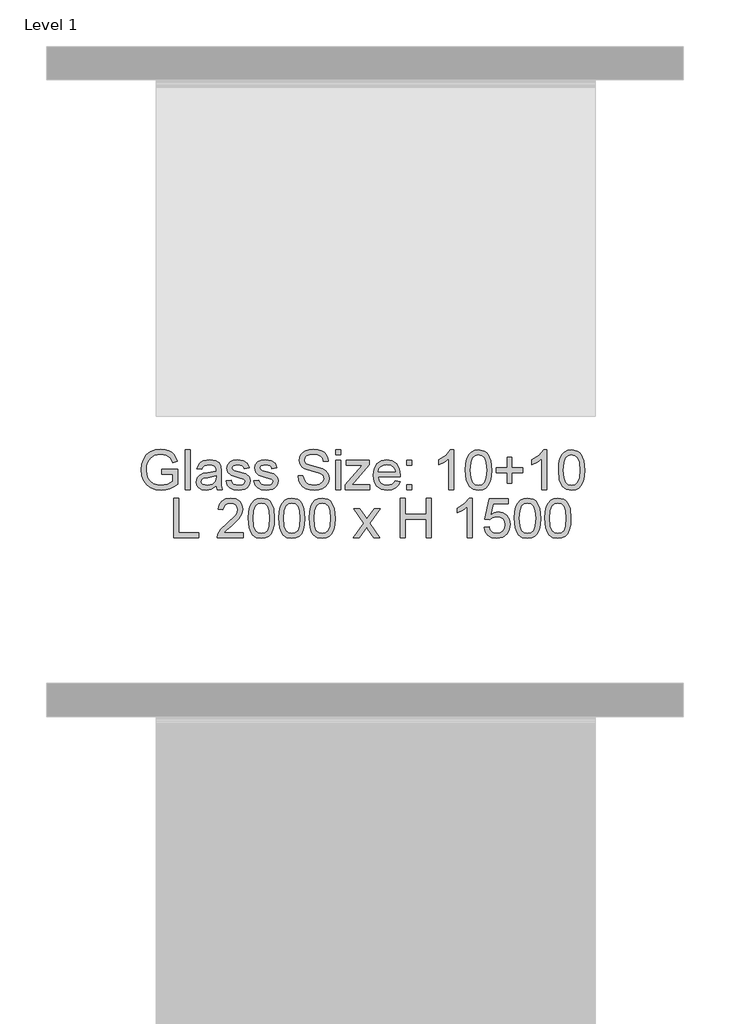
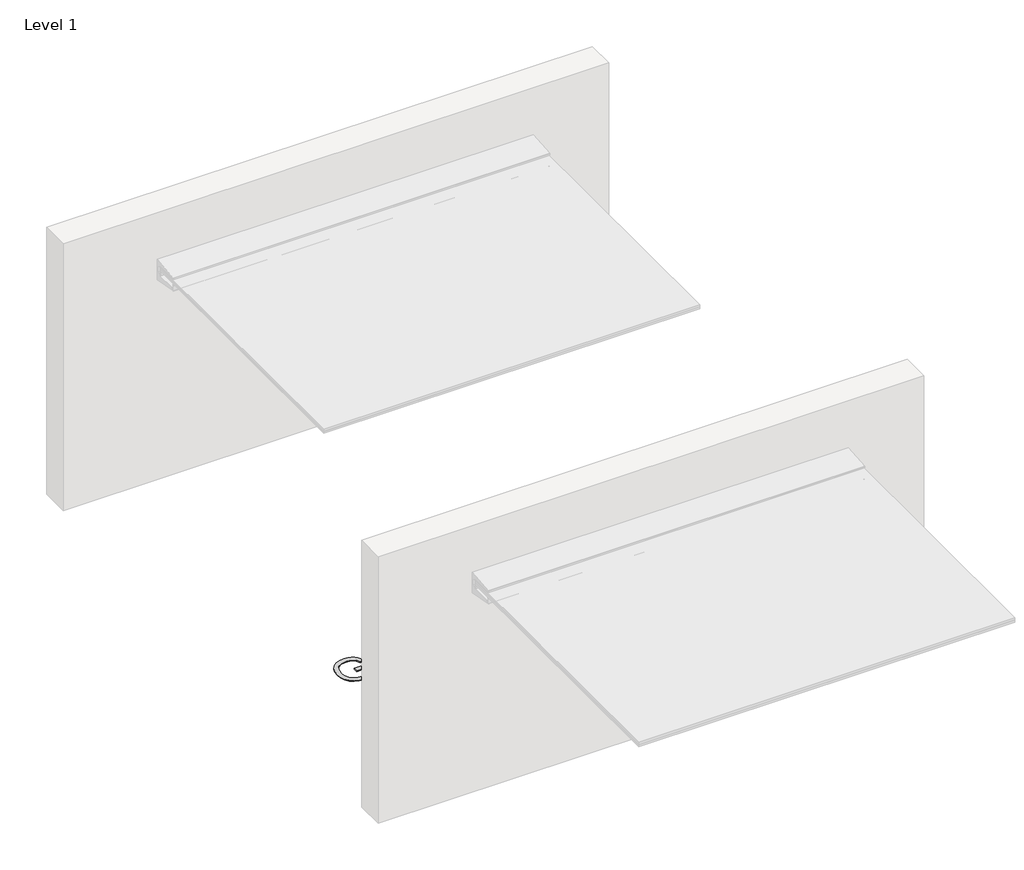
# One storey, part 4 of 7: 1 proxy.
"""IFC4 building model written with IfcOpenShell, lengths in millimetres."""

from ifc_helpers import new_model, si_unit, origin, origin_with_axes, place, context, project, spatial, polyline, outline, extrude, element, save

model = new_model("IFC4")

# Units and contexts
model_context = context("Model", 3, world=origin())
ifc_project = project(units=[si_unit("LENGTHUNIT", "METRE", prefix="MILLI")], contexts=[model_context])

# Site, building, storey
site = spatial("IfcSite", under=ifc_project)
building = spatial("IfcBuilding", under=site)
storey = spatial("IfcBuildingStorey", under=building, Name="Level 1", Elevation=0.0)

# Proxy
placement = place(None, origin())
element("IfcBuildingElementProxy", 1, Name="600mm Arial 3", ObjectType="600mm Arial 3", at=placement, inside=storey, context=model_context, shape_type="SweptSolid", body=[
    extrude(outline(polyline([(16606.0715057, -1237.1901227), (16606.0715057, -1214.5874529), (16679.5301825, -1214.5874529), (16679.5301825, -1282.174733), (16661.6787087, -1294.5907504), (16643.2643754, -1303.4971735), (16624.3313285, -1308.860893), (16604.9237139, -1310.6487995), (16579.5674473, -1307.8069111), (16556.6502384, -1299.2812458), (16537.6123452, -1285.3697882), (16523.8940256, -1266.3705225), (16515.600126, -1243.5802329), (16512.8354928, -1218.2957034), (16515.5890896, -1192.8290723), (16523.8498798, -1169.1393112), (16537.2757332, -1149.2681652), (16555.5245195, -1135.2573794), (16577.7519497, -1126.9469252), (16603.1137344, -1124.1767737), (16621.7322422, -1125.7825787), (16638.4745518, -1130.5999934), (16652.5736293, -1138.2813694), (16663.2624406, -1148.4790584), (16671.1700641, -1161.6841826), (16676.9255779, -1178.3878646), (16656.0887417, -1184.2592612), (16645.7806882, -1163.3562062), (16628.1664983, -1151.3043921), (16602.7605677, -1146.7794435), (16573.82297, -1151.6575588), (16554.1339256, -1164.4598522), (16542.5014969, -1181.8753859), (16537.2039962, -1198.9377528), (16535.4381626, -1217.3686408), (16537.5626811, -1238.9835474), (16543.9362367, -1256.7688025), (16554.3656913, -1270.5974866), (16568.6579068, -1280.3426807), (16585.3836617, -1286.1202674), (16603.1137344, -1288.0461297), (16634.037895, -1282.2409518), (16656.9275127, -1269.8580438), (16656.9275127, -1237.1901227), (16606.0715057, -1237.1901227)])), origin_with_axes(), (0.0, 0.0, 1.0), 5.0),
    extrude(outline(polyline([(16713.4341871, -1307.8234657), (16713.4341871, -1127.0021075), (16736.0368569, -1127.0021075), (16736.0368569, -1307.8234657), (16713.4341871, -1307.8234657)])), origin_with_axes(), (0.0, 0.0, 1.0), 5.0),
    extrude(outline(polyline([(16854.7008733, -1290.8714634), (16832.782464, -1306.1900697), (16808.5684711, -1310.6487995), (16789.6795701, -1307.9669397), (16775.7460395, -1299.9213605), (16767.1541555, -1287.7039994), (16764.2901942, -1272.5067942), (16768.6164864, -1254.6277292), (16779.9840401, -1241.6488524), (16795.8103235, -1234.2323514), (16815.3669304, -1230.8331218), (16854.5684358, -1223.0634541), (16854.7008733, -1218.0308284), (16853.1447325, -1207.9435041), (16848.4763099, -1201.3437011), (16838.0358189, -1196.4435129), (16823.4897648, -1194.8101168), (16800.62222, -1199.158482), (16794.2100368, -1205.1899073), (16789.7181977, -1214.5874529), (16767.1155279, -1211.7621192), (16776.8938313, -1189.6891995), (16785.2263585, -1182.261662), (16796.5828757, -1176.7544685), (16826.4033902, -1172.207447), (16853.7958836, -1176.2247184), (16869.2690003, -1186.3120427), (16876.1998971, -1201.6527219), (16877.3035431, -1221.430058), (16877.3035431, -1249.5509577), (16878.4513349, -1288.8186819), (16882.9542105, -1307.8234657), (16860.3515407, -1307.8234657), (16854.7008733, -1290.8714634)]), holes=[polyline([(16854.7008733, -1245.6661238), (16818.2364099, -1252.5970206), (16798.7901677, -1256.2611253), (16789.9830727, -1262.2208136), (16786.8928639, -1270.917544), (16788.5759241, -1277.638748), (16793.6251045, -1283.1459415), (16813.3803676, -1288.0461297), (16836.2479124, -1282.6382644), (16850.9926228, -1269.549023), (16854.5684358, -1252.0672706), (16854.7008733, -1245.6661238)])]), origin_with_axes(), (0.0, 0.0, 1.0), 5.0),
    extrude(outline(polyline([(16899.9062129, -1268.2687936), (16922.5088826, -1265.4434599), (16926.0736592, -1275.1113987), (16932.9714466, -1282.2188789), (16943.2463907, -1286.589317), (16956.9426374, -1288.0461297), (16970.4733372, -1286.710718), (16979.9867656, -1282.7044831), (16985.6153601, -1276.8993052), (16987.4915583, -1270.1670647), (16985.6043236, -1264.4060327), (16979.9426197, -1260.0135216), (16956.6777624, -1253.5682291), (16922.6413202, -1242.5096963), (16907.7862452, -1229.5970383), (16902.7315466, -1211.3648066), (16906.7929638, -1194.5231689), (16917.8735695, -1181.6546567), (16932.2430402, -1174.966562), (16951.6892825, -1172.207447), (16979.1921405, -1176.6441039), (16996.6738929, -1188.6517722), (17004.4435606, -1208.9367854), (16981.8408908, -1211.7621192), (16978.987966, -1204.6491208), (16973.3428167, -1199.2909195), (16953.4551161, -1194.8101168), (16931.8236548, -1199.0922632), (16925.3342164, -1209.069223), (16928.0271126, -1215.646953), (16936.4589679, -1220.6354329), (16955.9272831, -1225.4473294), (16989.1028814, -1236.0864767), (17004.5097794, -1248.1382908), (17008.6981159, -1257.0005681), (17010.0942281, -1267.7831894), (17008.4553138, -1278.9300138), (17003.5385709, -1289.4146507), (16995.5316193, -1298.4148837), (16984.6220787, -1305.1084966), (16956.6336165, -1310.6487995), (16933.8433269, -1307.9779762), (16917.2113819, -1299.9655063), (16906.1087033, -1286.6996816), (16899.9062129, -1268.2687936)])), origin_with_axes(), (0.0, 0.0, 1.0), 5.0),
    extrude(outline(polyline([(17027.0462304, -1268.2687936), (17049.6489002, -1265.4434599), (17053.2136767, -1275.1113987), (17060.1114641, -1282.2188789), (17070.3864082, -1286.589317), (17084.0826549, -1288.0461297), (17097.6133547, -1286.710718), (17107.1267831, -1282.7044831), (17112.7553776, -1276.8993052), (17114.6315758, -1270.1670647), (17112.7443412, -1264.4060327), (17107.0826373, -1260.0135216), (17083.8177799, -1253.5682291), (17049.7813377, -1242.5096963), (17034.9262627, -1229.5970383), (17029.8715641, -1211.3648066), (17033.9329813, -1194.5231689), (17045.013587, -1181.6546567), (17059.3830578, -1174.966562), (17078.8293, -1172.207447), (17106.332158, -1176.6441039), (17123.8139104, -1188.6517722), (17131.5835781, -1208.9367854), (17108.9809084, -1211.7621192), (17106.1279835, -1204.6491208), (17100.4828343, -1199.2909195), (17080.5951336, -1194.8101168), (17058.9636723, -1199.0922632), (17052.4742339, -1209.069223), (17055.1671301, -1215.646953), (17063.5989854, -1220.6354329), (17083.0673006, -1225.4473294), (17116.2428989, -1236.0864767), (17131.6497969, -1248.1382908), (17135.8381334, -1257.0005681), (17137.2342456, -1267.7831894), (17135.5953313, -1278.9300138), (17130.6785884, -1289.4146507), (17122.6716368, -1298.4148837), (17111.7620962, -1305.1084966), (17083.7736341, -1310.6487995), (17060.9833445, -1307.9779762), (17044.3513995, -1299.9655063), (17033.2487208, -1286.6996816), (17027.0462304, -1268.2687936)])), origin_with_axes(), (0.0, 0.0, 1.0), 5.0),
    extrude(outline(polyline([(17227.6449247, -1245.6661238), (17250.2475945, -1245.6661238), (17257.531658, -1268.2908665), (17264.8488309, -1276.2922999), (17275.3224313, -1282.5941185), (17302.4279767, -1288.0461297), (17326.0460008, -1283.9184937), (17341.2983883, -1272.573013), (17346.3089411, -1257.4089171), (17342.5565447, -1243.3043214), (17327.1937926, -1233.0404138), (17294.2830693, -1224.4099022), (17258.8560332, -1213.2630777), (17247.6043624, -1205.6589569), (17239.6305201, -1196.4435129), (17234.8793242, -1185.815402), (17233.2955922, -1173.9732806), (17235.2545638, -1160.735047), (17241.1314787, -1148.3907667), (17250.7718264, -1137.9282027), (17264.0210964, -1130.3351183), (17279.9246351, -1125.7163599), (17297.5277885, -1124.1767737), (17316.5987912, -1125.7880969), (17333.2859185, -1130.6220663), (17346.9932016, -1138.5793539), (17357.1246717, -1149.5606314), (17363.5368549, -1162.8816385), (17366.0862772, -1177.8581145), (17343.4836074, -1177.8581145), (17339.3338985, -1164.3715605), (17330.6813139, -1154.6374029), (17317.1616506, -1148.7439334), (17298.4107053, -1146.7794435), (17279.2183016, -1148.7218605), (17266.051805, -1154.5491113), (17258.4366477, -1163.1244406), (17255.898262, -1173.311093), (17257.6972049, -1181.9967869), (17263.0940338, -1188.982866), (17275.8521814, -1195.2295023), (17299.9999555, -1201.6085761), (17339.9960861, -1212.9540568), (17352.8811529, -1221.1541465), (17361.8703495, -1231.2745802), (17367.1512955, -1243.2049933), (17368.9116109, -1256.8350212), (17366.8864205, -1270.7685518), (17360.8108493, -1283.8743479), (17350.9332178, -1295.1536098), (17337.5018461, -1303.6075381), (17321.3499871, -1308.8884841), (17303.3108935, -1310.6487995), (17281.1662368, -1308.7505284), (17262.9395233, -1303.0557151), (17248.4210604, -1293.5422867), (17237.4011552, -1280.1881703), (17230.3267845, -1263.9204284), (17227.6449247, -1245.6661238)])), origin_with_axes(), (0.0, 0.0, 1.0), 5.0),
    extrude(outline(polyline([(17399.9902818, -1149.6047773), (17399.9902818, -1127.0021075), (17422.5929516, -1127.0021075), (17422.5929516, -1149.6047773), (17399.9902818, -1149.6047773)])), origin_with_axes(), (0.0, 0.0, 1.0), 5.0),
    extrude(outline(polyline([(17399.9902818, -1307.8234657), (17399.9902818, -1175.0327808), (17422.5929516, -1175.0327808), (17422.5929516, -1307.8234657), (17399.9902818, -1307.8234657)])), origin_with_axes(), (0.0, 0.0, 1.0), 5.0),
    extrude(outline(polyline([(17442.3702877, -1307.8234657), (17442.3702877, -1286.5451711), (17520.3759859, -1197.6354505), (17497.2877119, -1197.6354505), (17448.0209551, -1197.6354505), (17448.0209551, -1175.0327808), (17552.5583029, -1175.0327808), (17552.5583029, -1194.2362209), (17483.3817725, -1273.124836), (17472.786771, -1285.220796), (17498.921108, -1285.220796), (17555.3836366, -1285.220796), (17555.3836366, -1307.8234657), (17442.3702877, -1307.8234657)])), origin_with_axes(), (0.0, 0.0, 1.0), 5.0),
    extrude(outline(polyline([(17670.9574442, -1268.2687936), (17693.1186556, -1271.0941273), (17685.1337769, -1287.7922911), (17672.392184, -1300.2745272), (17655.1808248, -1308.0552314), (17633.7866474, -1310.6487995), (17607.2660344, -1306.173515), (17586.8596201, -1292.7476616), (17573.8476339, -1271.2431196), (17569.5103052, -1242.5317692), (17573.8917798, -1212.8547287), (17587.0362035, -1190.6604079), (17607.1667062, -1176.8206873), (17632.5064181, -1172.207447), (17657.057023, -1176.8096508), (17676.6743304, -1190.6162621), (17689.5373244, -1212.766437), (17693.824989, -1242.3993317), (17693.6925515, -1248.4914576), (17592.112975, -1248.4914576), (17596.0254, -1265.4103505), (17605.1139247, -1277.8484408), (17618.2307572, -1285.4967075), (17634.2281058, -1288.0461297), (17656.3893172, -1283.3225249), (17664.6225162, -1277.1972896), (17670.9574442, -1268.2687936)]), holes=[polyline([(17592.112975, -1225.8887878), (17671.2223192, -1225.8887878), (17668.1652199, -1213.9473382), (17662.1724222, -1205.4051183), (17648.9948891, -1197.4588672), (17632.4181264, -1194.8101168), (17617.1822936, -1196.9235989), (17604.5841746, -1203.2640451), (17595.8267437, -1213.1471949), (17592.112975, -1225.8887878)])]), origin_with_axes(), (0.0, 0.0, 1.0), 5.0),
    extrude(outline(polyline([(17722.0783262, -1197.6354505), (17722.0783262, -1175.0327808), (17744.680996, -1175.0327808), (17744.680996, -1197.6354505), (17722.0783262, -1197.6354505)])), origin_with_axes(), (0.0, 0.0, 1.0), 5.0),
    extrude(outline(polyline([(17722.0783262, -1307.8234657), (17722.0783262, -1285.220796), (17744.680996, -1285.220796), (17744.680996, -1307.8234657), (17722.0783262, -1307.8234657)])), origin_with_axes(), (0.0, 0.0, 1.0), 5.0),
    extrude(outline(polyline([(17936.8036892, -1307.8234657), (17914.2010194, -1307.8234657), (17914.2010194, -1166.9099463), (17892.7902873, -1182.1623338), (17868.9956798, -1193.5740333), (17868.9956798, -1172.207447), (17902.1271323, -1151.06159), (17922.2355622, -1127.0021075), (17936.8036892, -1127.0021075), (17936.8036892, -1307.8234657)])), origin_with_axes(), (0.0, 0.0, 1.0), 5.0),
    extrude(outline(polyline([(17990.4850299, -1218.8695993), (17992.1460171, -1189.9264833), (17997.1289788, -1166.8437275), (18005.3842507, -1149.2681652), (18016.862169, -1136.8466297), (18031.645507, -1129.463238), (18049.8170381, -1127.0021075), (18076.2162501, -1132.8293583), (18086.6457046, -1139.9423567), (18094.4484818, -1149.6268502), (18105.0434832, -1176.3792289), (18109.1490463, -1218.8695993), (18107.5046138, -1247.6471684), (18102.5713162, -1270.6747419), (18094.3657083, -1288.2668589), (18082.9043448, -1300.7380585), (18068.0878974, -1308.1711142), (18049.8170381, -1310.6487995), (18026.3314515, -1306.3445801), (18008.4965324, -1293.4319221), (18000.6165001, -1279.8156897), (17994.9879055, -1262.8498918), (17990.4850299, -1218.8695993)]), holes=[polyline([(18013.0876997, -1218.8254535), (18015.7364501, -1254.3794089), (18023.6827012, -1274.9568883), (18035.5137861, -1284.7738193), (18049.8170381, -1288.0461297), (18064.1202901, -1284.7627829), (18075.951375, -1274.9127425), (18083.8976261, -1254.3242266), (18086.5463765, -1218.8254535), (18083.9859178, -1184.0716414), (18076.3045418, -1163.3341333), (18064.4955297, -1153.0371163), (18049.5521631, -1149.6047773), (18035.4034215, -1152.6287673), (18024.0358679, -1161.7007373), (18015.8247418, -1183.7295111), (18013.0876997, -1218.8254535)])]), origin_with_axes(), (0.0, 0.0, 1.0), 5.0),
    extrude(outline(polyline([(18179.7823894, -1279.5701285), (18179.7823894, -1231.5394552), (18131.7517161, -1231.5394552), (18131.7517161, -1208.9367854), (18179.7823894, -1208.9367854), (18179.7823894, -1160.9061121), (18202.3850591, -1160.9061121), (18202.3850591, -1208.9367854), (18250.4157324, -1208.9367854), (18250.4157324, -1231.5394552), (18202.3850591, -1231.5394552), (18202.3850591, -1279.5701285), (18179.7823894, -1279.5701285)])), origin_with_axes(), (0.0, 0.0, 1.0), 5.0),
    extrude(outline(polyline([(18360.6037476, -1307.8234657), (18338.0010778, -1307.8234657), (18338.0010778, -1166.9099463), (18316.5903457, -1182.1623338), (18292.7957383, -1193.5740333), (18292.7957383, -1172.207447), (18325.9271908, -1151.06159), (18346.0356206, -1127.0021075), (18360.6037476, -1127.0021075), (18360.6037476, -1307.8234657)])), origin_with_axes(), (0.0, 0.0, 1.0), 5.0),
    extrude(outline(polyline([(18414.2850884, -1218.8695993), (18415.9460756, -1189.9264833), (18420.9290372, -1166.8437275), (18429.1843092, -1149.2681652), (18440.6622274, -1136.8466297), (18455.4455654, -1129.463238), (18473.6170966, -1127.0021075), (18500.0163085, -1132.8293583), (18510.4457631, -1139.9423567), (18518.2485402, -1149.6268502), (18528.8435417, -1176.3792289), (18532.9491047, -1218.8695993), (18531.3046722, -1247.6471684), (18526.3713747, -1270.6747419), (18518.1657668, -1288.2668589), (18506.7044032, -1300.7380585), (18491.8879558, -1308.1711142), (18473.6170966, -1310.6487995), (18450.13151, -1306.3445801), (18432.2965909, -1293.4319221), (18424.4165585, -1279.8156897), (18418.787964, -1262.8498918), (18414.2850884, -1218.8695993)]), holes=[polyline([(18436.8877582, -1218.8254535), (18439.5365085, -1254.3794089), (18447.4827596, -1274.9568883), (18459.3138446, -1284.7738193), (18473.6170966, -1288.0461297), (18487.9203485, -1284.7627829), (18499.7514335, -1274.9127425), (18507.6976846, -1254.3242266), (18510.346435, -1218.8254535), (18507.7859763, -1184.0716414), (18500.1046002, -1163.3341333), (18488.2955882, -1153.0371163), (18473.3522215, -1149.6047773), (18459.20348, -1152.6287673), (18447.8359263, -1161.7007373), (18439.6248002, -1183.7295111), (18436.8877582, -1218.8254535)])]), origin_with_axes(), (0.0, 0.0, 1.0), 5.0),
    extrude(outline(polyline([(16662.5781801, -1527.3781379), (16662.5781801, -1346.5567796), (16685.1808499, -1346.5567796), (16685.1808499, -1504.7754681), (16775.5915291, -1504.7754681), (16775.5915291, -1527.3781379), (16662.5781801, -1527.3781379)])), origin_with_axes(), (0.0, 0.0, 1.0), 5.0),
    extrude(outline(polyline([(16979.0155571, -1504.7754681), (16979.0155571, -1527.3781379), (16860.3515407, -1527.3781379), (16862.7795619, -1511.7946565), (16876.5309909, -1487.8013928), (16904.8505469, -1461.6008371), (16943.853396, -1423.9444361), (16951.1540142, -1410.9655593), (16953.5875536, -1398.3398492), (16951.2864517, -1387.0219597), (16944.3831461, -1377.6133776), (16933.7715899, -1371.2729314), (16920.3457365, -1369.1594494), (16906.2466591, -1371.2232674), (16895.2929726, -1377.4147213), (16888.2241201, -1387.2482071), (16885.7795442, -1400.2381203), (16863.1768745, -1397.4127866), (16868.6564768, -1375.5495596), (16880.5041164, -1359.5798022), (16898.1017517, -1349.8125353), (16920.8313407, -1346.5567796), (16943.7264767, -1350.1767384), (16961.2910026, -1361.0366149), (16972.4654182, -1377.2602109), (16976.1902234, -1396.9713282), (16972.172952, -1418.4041333), (16958.8188356, -1440.5653446), (16926.4378624, -1471.533651), (16900.4359629, -1493.2754769), (16890.238274, -1504.7754681), (16979.0155571, -1504.7754681)])), origin_with_axes(), (0.0, 0.0, 1.0), 5.0),
    extrude(outline(polyline([(17001.6182269, -1438.4242714), (17003.2792141, -1409.4811555), (17008.2621757, -1386.3983997), (17016.5174477, -1368.8228374), (17027.9953659, -1356.4013018), (17042.7787039, -1349.0179101), (17060.9502351, -1346.5567796), (17087.349447, -1352.3840304), (17097.7789016, -1359.4970288), (17105.5816787, -1369.1815223), (17116.1766802, -1395.933901), (17120.2822433, -1438.4242714), (17118.6378107, -1467.2018405), (17113.7045132, -1490.229414), (17105.4989053, -1507.821531), (17094.0375417, -1520.2927306), (17079.2210944, -1527.7257863), (17060.9502351, -1530.2034716), (17037.4646485, -1525.8992522), (17019.6297294, -1512.9865942), (17011.749697, -1499.3703619), (17006.1211025, -1482.404564), (17001.6182269, -1438.4242714)]), holes=[polyline([(17024.2208967, -1438.3801256), (17026.869647, -1473.934081), (17034.8158981, -1494.5115604), (17046.6469831, -1504.3284915), (17060.9502351, -1507.6008018), (17075.253487, -1504.317455), (17087.084572, -1494.4674146), (17095.0308231, -1473.8788987), (17097.6795735, -1438.3801256), (17095.1191148, -1403.6263135), (17087.4377387, -1382.8888054), (17075.6287267, -1372.5917884), (17060.68536, -1369.1594494), (17046.5366185, -1372.1834394), (17035.1690649, -1381.2554094), (17026.9579387, -1403.2841832), (17024.2208967, -1438.3801256)])]), origin_with_axes(), (0.0, 0.0, 1.0), 5.0),
    extrude(outline(polyline([(17140.0595793, -1438.4242714), (17141.7205665, -1409.4811555), (17146.7035281, -1386.3983997), (17154.9588001, -1368.8228374), (17166.4367184, -1356.4013018), (17181.2200563, -1349.0179101), (17199.3915875, -1346.5567796), (17225.7907995, -1352.3840304), (17236.220254, -1359.4970288), (17244.0230312, -1369.1815223), (17254.6180326, -1395.933901), (17258.7235957, -1438.4242714), (17257.0791632, -1467.2018405), (17252.1458656, -1490.229414), (17243.9402577, -1507.821531), (17232.4788941, -1520.2927306), (17217.6624468, -1527.7257863), (17199.3915875, -1530.2034716), (17175.9060009, -1525.8992522), (17158.0710818, -1512.9865942), (17150.1910495, -1499.3703619), (17144.5624549, -1482.404564), (17140.0595793, -1438.4242714)]), holes=[polyline([(17162.6622491, -1438.3801256), (17165.3109995, -1473.934081), (17173.2572506, -1494.5115604), (17185.0883355, -1504.3284915), (17199.3915875, -1507.6008018), (17213.6948395, -1504.317455), (17225.5259244, -1494.4674146), (17233.4721755, -1473.8788987), (17236.1209259, -1438.3801256), (17233.5604672, -1403.6263135), (17225.8790912, -1382.8888054), (17214.0700791, -1372.5917884), (17199.1267125, -1369.1594494), (17184.9779709, -1372.1834394), (17173.6104173, -1381.2554094), (17165.3992911, -1403.2841832), (17162.6622491, -1438.3801256)])]), origin_with_axes(), (0.0, 0.0, 1.0), 5.0),
    extrude(outline(polyline([(17278.5009317, -1438.4242714), (17280.1619189, -1409.4811555), (17285.1448806, -1386.3983997), (17293.4001525, -1368.8228374), (17304.8780708, -1356.4013018), (17319.6614088, -1349.0179101), (17337.8329399, -1346.5567796), (17364.2321519, -1352.3840304), (17374.6616065, -1359.4970288), (17382.4643836, -1369.1815223), (17393.059385, -1395.933901), (17397.1649481, -1438.4242714), (17395.5205156, -1467.2018405), (17390.587218, -1490.229414), (17382.3816101, -1507.821531), (17370.9202466, -1520.2927306), (17356.1037992, -1527.7257863), (17337.8329399, -1530.2034716), (17314.3473534, -1525.8992522), (17296.5124342, -1512.9865942), (17288.6324019, -1499.3703619), (17283.0038074, -1482.404564), (17278.5009317, -1438.4242714)]), holes=[polyline([(17301.1036015, -1438.3801256), (17303.7523519, -1473.934081), (17311.698603, -1494.5115604), (17323.529688, -1504.3284915), (17337.8329399, -1507.6008018), (17352.1361919, -1504.317455), (17363.9672769, -1494.4674146), (17371.913528, -1473.8788987), (17374.5622783, -1438.3801256), (17372.0018196, -1403.6263135), (17364.3204436, -1382.8888054), (17352.5114315, -1372.5917884), (17337.5680649, -1369.1594494), (17323.4193234, -1372.1834394), (17312.0517697, -1381.2554094), (17303.8406436, -1403.2841832), (17301.1036015, -1438.3801256)])]), origin_with_axes(), (0.0, 0.0, 1.0), 5.0),
    extrude(outline(polyline([(17479.0996261, -1527.3781379), (17527.3951744, -1460.5854828), (17481.9249598, -1394.5874529), (17509.0305052, -1394.5874529), (17530.9709874, -1426.4166031), (17541.256968, -1441.3820427), (17550.1744275, -1429.1094993), (17575.1609727, -1394.5874529), (17602.3548097, -1394.5874529), (17554.5890115, -1460.6296287), (17600.5889762, -1527.3781379), (17573.4392849, -1527.3781379), (17545.7156978, -1487.205424), (17540.6830721, -1479.8330688), (17506.2934632, -1527.3781379), (17479.0996261, -1527.3781379)])), origin_with_axes(), (0.0, 0.0, 1.0), 5.0),
    extrude(outline(polyline([(17693.824989, -1527.3781379), (17693.824989, -1346.5567796), (17716.4276588, -1346.5567796), (17716.4276588, -1420.0154564), (17812.4890054, -1420.0154564), (17812.4890054, -1346.5567796), (17835.0916752, -1346.5567796), (17835.0916752, -1527.3781379), (17812.4890054, -1527.3781379), (17812.4890054, -1442.6181262), (17716.4276588, -1442.6181262), (17716.4276588, -1527.3781379), (17693.824989, -1527.3781379)])), origin_with_axes(), (0.0, 0.0, 1.0), 5.0),
    extrude(outline(polyline([(18021.5637009, -1527.3781379), (17998.9610311, -1527.3781379), (17998.9610311, -1386.4646184), (17977.550299, -1401.717006), (17953.7556915, -1413.1287054), (17953.7556915, -1391.7621192), (17986.887144, -1370.6162621), (18006.9955739, -1346.5567796), (18021.5637009, -1346.5567796), (18021.5637009, -1527.3781379)])), origin_with_axes(), (0.0, 0.0, 1.0), 5.0),
    extrude(outline(polyline([(18075.2450416, -1479.3474646), (18097.8477114, -1476.5221308), (18101.9974203, -1490.0914582), (18109.237338, -1499.8090611), (18119.534355, -1505.6528666), (18132.8553621, -1507.6008018), (18149.0568851, -1504.8913509), (18161.196991, -1496.7629982), (18168.7790389, -1484.1538428), (18171.3063882, -1468.0019838), (18168.9390676, -1452.7937422), (18161.8371056, -1441.1613135), (18149.9453201, -1433.7779218), (18133.2085288, -1431.3167913), (18113.364974, -1435.245771), (18100.6730451, -1445.4434599), (18078.0703753, -1442.6181262), (18097.8477114, -1349.3821133), (18185.4330568, -1349.3821133), (18185.4330568, -1371.9847831), (18116.1240889, -1371.9847831), (18106.4120042, -1421.78129), (18122.558345, -1411.9809136), (18139.477238, -1408.7141215), (18160.6010221, -1412.7645023), (18178.1489933, -1424.9156446), (18189.9690418, -1443.4348242), (18193.909058, -1466.589317), (18190.3663544, -1489.1919868), (18179.7382435, -1508.5278644), (18159.3870116, -1524.7845698), (18132.7670704, -1530.2034716), (18110.5672314, -1526.7214685), (18092.8813045, -1516.2754592), (18080.7577533, -1500.0794544), (18075.2450416, -1479.3474646)])), origin_with_axes(), (0.0, 0.0, 1.0), 5.0),
    extrude(outline(polyline([(18213.686394, -1438.4242714), (18215.3473812, -1409.4811555), (18220.3303429, -1386.3983997), (18228.5856148, -1368.8228374), (18240.0635331, -1356.4013018), (18254.8468711, -1349.0179101), (18273.0184022, -1346.5567796), (18299.4176142, -1352.3840304), (18309.8470688, -1359.4970288), (18317.6498459, -1369.1815223), (18328.2448473, -1395.933901), (18332.3504104, -1438.4242714), (18330.7059779, -1467.2018405), (18325.7726803, -1490.229414), (18317.5670724, -1507.821531), (18306.1057089, -1520.2927306), (18291.2892615, -1527.7257863), (18273.0184022, -1530.2034716), (18249.5328156, -1525.8992522), (18231.6978965, -1512.9865942), (18223.8178642, -1499.3703619), (18218.1892697, -1482.404564), (18213.686394, -1438.4242714)]), holes=[polyline([(18236.2890638, -1438.3801256), (18238.9378142, -1473.934081), (18246.8840653, -1494.5115604), (18258.7151502, -1504.3284915), (18273.0184022, -1507.6008018), (18287.3216542, -1504.317455), (18299.1527392, -1494.4674146), (18307.0989903, -1473.8788987), (18309.7477406, -1438.3801256), (18307.1872819, -1403.6263135), (18299.5059059, -1382.8888054), (18287.6968938, -1372.5917884), (18272.7535272, -1369.1594494), (18258.6047857, -1372.1834394), (18247.237232, -1381.2554094), (18239.0261059, -1403.2841832), (18236.2890638, -1438.3801256)])]), origin_with_axes(), (0.0, 0.0, 1.0), 5.0),
    extrude(outline(polyline([(18352.1277465, -1438.4242714), (18353.7887337, -1409.4811555), (18358.7716953, -1386.3983997), (18367.0269673, -1368.8228374), (18378.5048855, -1356.4013018), (18393.2882235, -1349.0179101), (18411.4597546, -1346.5567796), (18437.8589666, -1352.3840304), (18448.2884212, -1359.4970288), (18456.0911983, -1369.1815223), (18466.6861998, -1395.933901), (18470.7917628, -1438.4242714), (18469.1473303, -1467.2018405), (18464.2140328, -1490.229414), (18456.0084249, -1507.821531), (18444.5470613, -1520.2927306), (18429.7306139, -1527.7257863), (18411.4597546, -1530.2034716), (18387.9741681, -1525.8992522), (18370.1392489, -1512.9865942), (18362.2592166, -1499.3703619), (18356.6306221, -1482.404564), (18352.1277465, -1438.4242714)]), holes=[polyline([(18374.7304162, -1438.3801256), (18377.3791666, -1473.934081), (18385.3254177, -1494.5115604), (18397.1565027, -1504.3284915), (18411.4597546, -1507.6008018), (18425.7630066, -1504.317455), (18437.5940916, -1494.4674146), (18445.5403427, -1473.8788987), (18448.189093, -1438.3801256), (18445.6286344, -1403.6263135), (18437.9472583, -1382.8888054), (18426.1382463, -1372.5917884), (18411.1948796, -1369.1594494), (18397.0461381, -1372.1834394), (18385.6785844, -1381.2554094), (18377.4674583, -1403.2841832), (18374.7304162, -1438.3801256)])]), origin_with_axes(), (0.0, 0.0, 1.0), 5.0),
])

save(model, "model.ifc")
